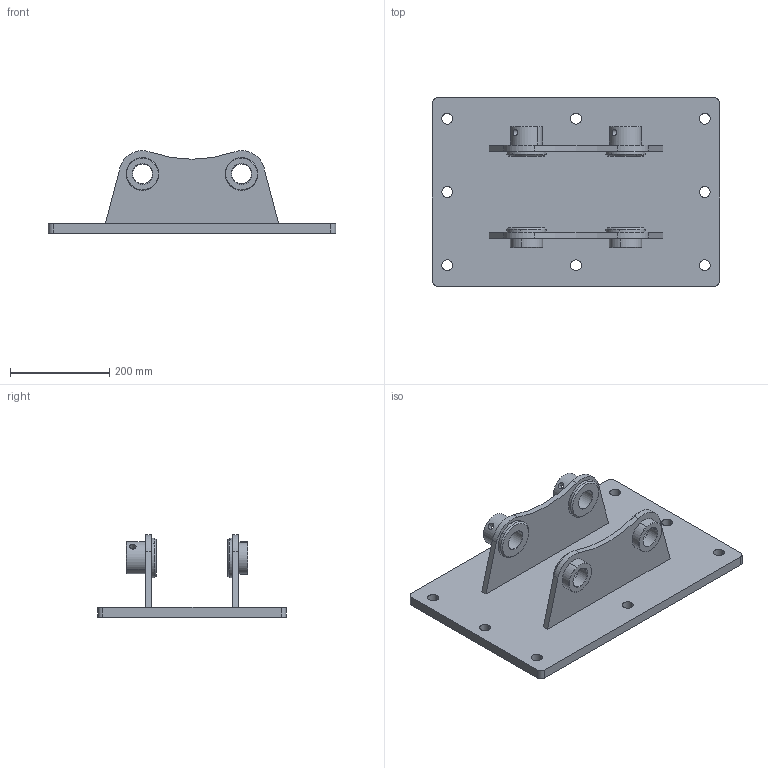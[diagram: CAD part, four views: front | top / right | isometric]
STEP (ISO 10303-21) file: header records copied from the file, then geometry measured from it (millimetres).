
FILE_DESCRIPTION (( 'STEP AP203' ), '1' );
FILE_NAME ('E-CW3T-VIO35-01蟀諉ん軞傖郪璃.STEP', '2025-10-29T13:12:31', ( '' ), ( '' ), 'SwSTEP 2.0', 'SolidWorks 2018', '' );
FILE_SCHEMA (( 'CONFIG_CONTROL_DESIGN' ));
Length unit declared in the file: millimetre
Products named in the file (5): E-CW3T-VIO35-01-01-Q355B蟀諉ん耜啣; E-CW3T-VIO35-01蟀諉ん軞傖郪璃; E-CW3T-S40-01-01-Q355B源倛啣-儂樓; E-KP410GP300-VIO27-KP-10-45#粣杶; E-KP410GP300-VIO27-KP-09-45#粣杶
Assembly tree (7 placements, depth 2):
  E-CW3T-VIO35-01蟀諉ん軞傖郪璃
    E-CW3T-S40-01-01-Q355B源倛啣-儂樓
    E-CW3T-VIO35-01-01-Q355B蟀諉ん耜啣  x2
    E-KP410GP300-VIO27-KP-09-45#粣杶  x2
    E-KP410GP300-VIO27-KP-10-45#粣杶  x2
Bounding box: 580 x 380 x 167 mm (x, y, z)
Volume: 5654835 mm3; surface area: 756340 mm2
Topology: 7 solids, 7 shells, 146 faces, 352 edges, 228 vertices
Faces by surface type: cylinder 74, cone 40, plane 32
Entity records: 3587 total; most frequent: CARTESIAN_POINT 782, DIRECTION 512, ORIENTED_EDGE 424, EDGE_CURVE 212, AXIS2_PLACEMENT_3D 212, VERTEX_POINT 138, EDGE_LOOP 118, CIRCLE 116
